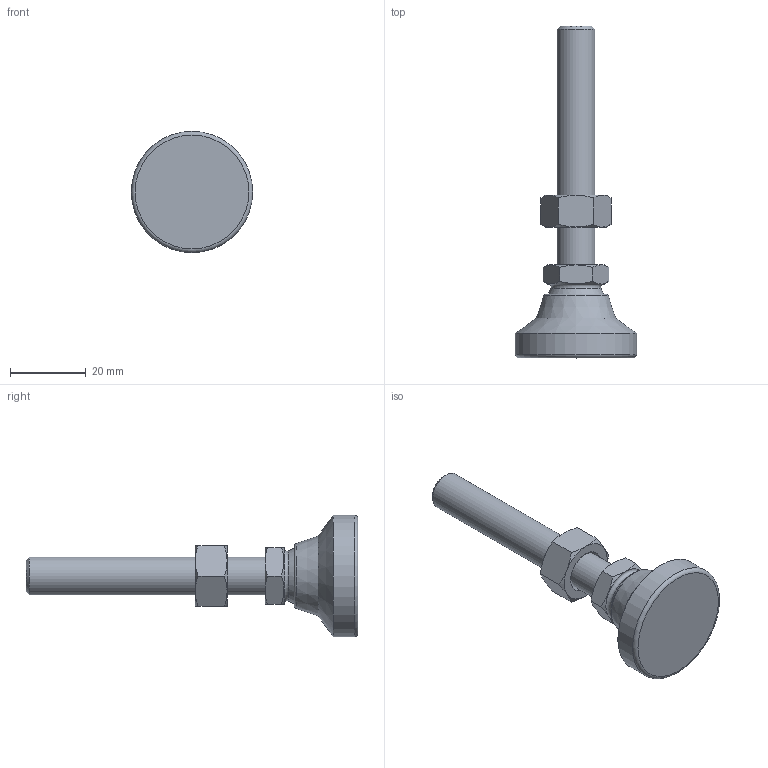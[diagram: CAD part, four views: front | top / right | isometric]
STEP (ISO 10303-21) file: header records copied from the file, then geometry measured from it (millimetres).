
FILE_DESCRIPTION( ( 'STEP AP214' ), ' ' );
FILE_NAME( 'O:/ganter_2015/teil_2/2_5/gn343_2/gn343_2_kre/Levelling foot with threaded stud GN 343.2-32-M10-63-KRE-(0).stp', '2015-10-26T09:18:39', ( '' ), ( '' ), ' ', 'PARTsolutions', ' ' );
FILE_SCHEMA( ( 'AUTOMOTIVE_DESIGN { 1 0 10303 214 1 1 1 1 }' ) );
Length unit declared in the file: millimetre
Products named in the file (4): Levelling foot with threaded stud GN 343.2-32-M10-63-KRE-(0); _Levelling foot with threaded stud GN 343.2-32-M10-63-KRE-(0)_foot; _Levelling foot with threaded stud GN 343.2-32-M10-63-KRE-(0)_screw; _Levelling foot with threaded stud GN 343.2-32-M10-63-KRE-(0)_nut
Assembly tree (3 placements, depth 2):
  Levelling foot with threaded stud GN 343.2-32-M10-63-KRE-(0)
    _Levelling foot with threaded stud GN 343.2-32-M10-63-KRE-(0)_foot
    _Levelling foot with threaded stud GN 343.2-32-M10-63-KRE-(0)_screw
    _Levelling foot with threaded stud GN 343.2-32-M10-63-KRE-(0)_nut
Bounding box: 32 x 87.5 x 32 mm (x, y, z)
Volume: 16879.1 mm3; surface area: 6964.8 mm2
Topology: 3 solids, 3 shells, 50 faces, 107 edges, 63 vertices
Faces by surface type: cone 24, plane 18, torus 3, cylinder 3, sphere 2
Full cylindrical faces by diameter (mm): 8.376 x1, 10 x1, 32 x1
Entity records: 1874 total; most frequent: CARTESIAN_POINT 468, DIRECTION 188, ORIENTED_EDGE 176, AXIS2_PLACEMENT_3D 88, EDGE_CURVE 88, EDGE_LOOP 66, VERTEX_POINT 60, FACE_OUTER_BOUND 56
